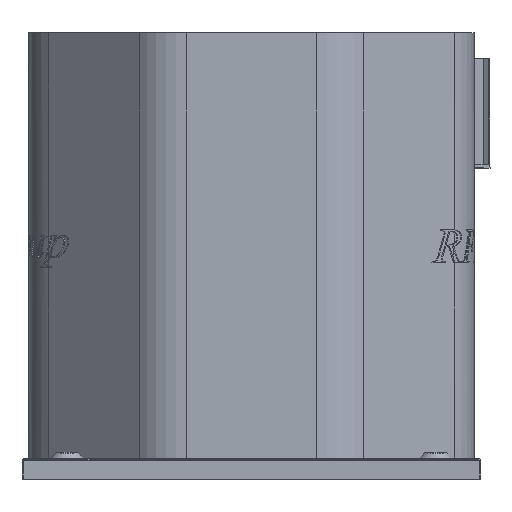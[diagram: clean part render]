
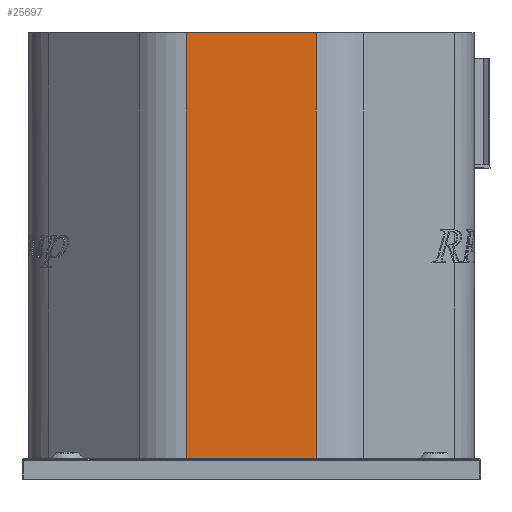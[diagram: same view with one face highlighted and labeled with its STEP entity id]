
A CAD part, front view. The second image highlights one B-rep face of the part: STEP entity #25697.
In plain terms, the highlighted planar face has unit normal (0, -1, 0).
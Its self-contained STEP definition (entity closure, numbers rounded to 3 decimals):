
#3518=FACE_OUTER_BOUND('',#4970,.T.);
#4970=EDGE_LOOP('',(#22106,#22107,#22108,#22109));
#6061=LINE('',#41908,#8274);
#7118=LINE('',#45692,#9331);
#7119=LINE('',#45695,#9332);
#7120=LINE('',#45696,#9333);
#8274=VECTOR('',#29389,10.);
#9331=VECTOR('',#32866,10.);
#9332=VECTOR('',#32869,10.);
#9333=VECTOR('',#32870,10.);
#10709=VERTEX_POINT('',#41905);
#10710=VERTEX_POINT('',#41907);
#11847=VERTEX_POINT('',#45690);
#11848=VERTEX_POINT('',#45694);
#13730=EDGE_CURVE('',#10709,#10710,#6061,.T.);
#15440=EDGE_CURVE('',#10710,#11847,#7118,.T.);
#15441=EDGE_CURVE('',#11848,#11847,#7119,.T.);
#15442=EDGE_CURVE('',#10709,#11848,#7120,.T.);
#22106=ORIENTED_EDGE('',*,*,#15441,.T.);
#22107=ORIENTED_EDGE('',*,*,#15440,.F.);
#22108=ORIENTED_EDGE('',*,*,#13730,.F.);
#22109=ORIENTED_EDGE('',*,*,#15442,.T.);
#23818=PLANE('',#27482);
#25697=ADVANCED_FACE('',(#3518),#23818,.T.);
#27482=AXIS2_PLACEMENT_3D('',#45693,#32867,#32868);
#29389=DIRECTION('',(-1.,0.,0.));
#32866=DIRECTION('',(0.,0.,1.));
#32867=DIRECTION('center_axis',(0.,-1.,0.));
#32868=DIRECTION('ref_axis',(1.,0.,0.));
#32869=DIRECTION('',(-1.,0.,0.));
#32870=DIRECTION('',(0.,0.,1.));
#41905=CARTESIAN_POINT('',(620.718,278.025,317.317));
#41907=CARTESIAN_POINT('',(462.235,278.025,317.317));
#41908=CARTESIAN_POINT('',(501.856,278.025,317.317));
#45690=CARTESIAN_POINT('',(462.235,278.025,837.317));
#45692=CARTESIAN_POINT('',(462.235,278.025,317.317));
#45693=CARTESIAN_POINT('Origin',(462.235,278.025,317.317));
#45694=CARTESIAN_POINT('',(620.718,278.025,837.317));
#45695=CARTESIAN_POINT('',(501.856,278.025,837.317));
#45696=CARTESIAN_POINT('',(620.718,278.025,317.317));
